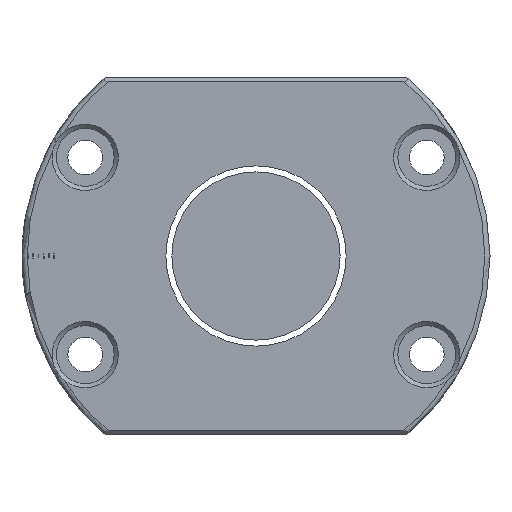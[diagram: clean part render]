
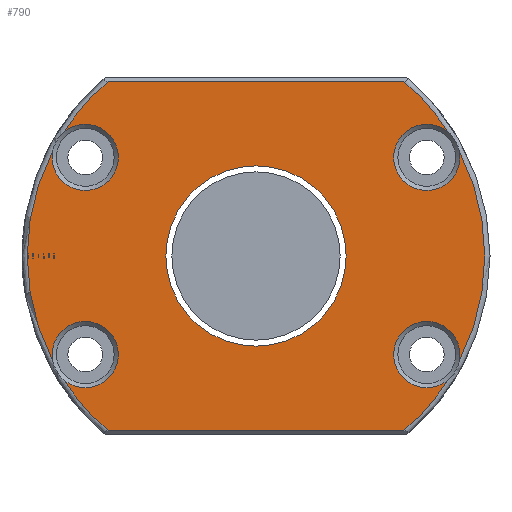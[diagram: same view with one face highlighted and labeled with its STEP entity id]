
A CAD part, left-side view. The second image highlights one B-rep face of the part: STEP entity #790.
In plain terms, the highlighted planar face has unit normal (-1, 0, 0).
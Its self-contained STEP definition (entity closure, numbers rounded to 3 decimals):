
#5 = CARTESIAN_POINT ( 'NONE',  ( -60., 36.595, 23.517 ) ) ;
#15 = AXIS2_PLACEMENT_3D ( 'NONE', #155, #627, #2931 ) ;
#40 = EDGE_CURVE ( 'NONE', #688, #693, #1375, .T. ) ;
#47 = ORIENTED_EDGE ( 'NONE', *, *, #162, .T. ) ;
#85 = VERTEX_POINT ( 'NONE', #1923 ) ;
#89 = ORIENTED_EDGE ( 'NONE', *, *, #295, .T. ) ;
#92 = CARTESIAN_POINT ( 'NONE',  ( -60., -28.71, -33.2 ) ) ;
#123 = VERTEX_POINT ( 'NONE', #2690 ) ;
#155 = CARTESIAN_POINT ( 'NONE',  ( -60., 32.476, 18.75 ) ) ;
#162 = EDGE_CURVE ( 'NONE', #351, #2145, #1739, .T. ) ;
#165 = EDGE_CURVE ( 'NONE', #123, #1654, #1431, .T. ) ;
#169 = VERTEX_POINT ( 'NONE', #3154 ) ;
#174 = VERTEX_POINT ( 'NONE', #2859 ) ;
#215 = VERTEX_POINT ( 'NONE', #1003 ) ;
#232 = AXIS2_PLACEMENT_3D ( 'NONE', #1868, #1381, #1396 ) ;
#276 = VECTOR ( 'NONE', #1888, 1000. ) ;
#295 = EDGE_CURVE ( 'NONE', #582, #2126, #2413, .T. ) ;
#351 = VERTEX_POINT ( 'NONE', #2407 ) ;
#359 = EDGE_CURVE ( 'NONE', #2145, #2344, #1221, .T. ) ;
#371 = DIRECTION ( 'NONE',  ( -1., 0., 0. ) ) ;
#380 = AXIS2_PLACEMENT_3D ( 'NONE', #402, #385, #457 ) ;
#385 = DIRECTION ( 'NONE',  ( -1., 0., 0. ) ) ;
#402 = CARTESIAN_POINT ( 'NONE',  ( -60., 0., 0. ) ) ;
#445 = DIRECTION ( 'NONE',  ( 0., 0., 1. ) ) ;
#446 = CARTESIAN_POINT ( 'NONE',  ( -60., 44.5, 0. ) ) ;
#457 = DIRECTION ( 'NONE',  ( 0., 0., 1. ) ) ;
#491 = DIRECTION ( 'NONE',  ( 0., 0., -1. ) ) ;
#509 = FACE_BOUND ( 'NONE', #921, .T. ) ;
#525 = AXIS2_PLACEMENT_3D ( 'NONE', #2605, #371, #445 ) ;
#539 = VECTOR ( 'NONE', #594, 1000. ) ;
#582 = VERTEX_POINT ( 'NONE', #1186 ) ;
#594 = DIRECTION ( 'NONE',  ( 0., -1., 0. ) ) ;
#600 = EDGE_CURVE ( 'NONE', #174, #582, #1111, .T. ) ;
#602 = EDGE_LOOP ( 'NONE', ( #1851, #47, #1070, #1558, #1677, #1917, #89, #2393, #2081, #1895, #2388, #934 ) ) ;
#622 = AXIS2_PLACEMENT_3D ( 'NONE', #1915, #1007, #491 ) ;
#627 = DIRECTION ( 'NONE',  ( 1., 0., 0. ) ) ;
#638 = EDGE_CURVE ( 'NONE', #2344, #85, #900, .T. ) ;
#688 = VERTEX_POINT ( 'NONE', #5 ) ;
#693 = VERTEX_POINT ( 'NONE', #2246 ) ;
#719 = CARTESIAN_POINT ( 'NONE',  ( -60., 28.107, 33.2 ) ) ;
#732 = DIRECTION ( 'NONE',  ( 1., 0., 0. ) ) ;
#757 = DIRECTION ( 'NONE',  ( 0., 0., 1. ) ) ;
#790 = ADVANCED_FACE ( 'NONE', ( #1507, #509 ), #1370, .T. ) ;
#900 = CIRCLE ( 'NONE', #1166, 43.5 ) ;
#921 = EDGE_LOOP ( 'NONE', ( #2443 ) ) ;
#934 = ORIENTED_EDGE ( 'NONE', *, *, #2591, .T. ) ;
#999 = DIRECTION ( 'NONE',  ( 0., 0., 1. ) ) ;
#1003 = CARTESIAN_POINT ( 'NONE',  ( -60., 0., -17.15 ) ) ;
#1007 = DIRECTION ( 'NONE',  ( 1., 0., 0. ) ) ;
#1008 = AXIS2_PLACEMENT_3D ( 'NONE', #446, #2381, #2851 ) ;
#1070 = ORIENTED_EDGE ( 'NONE', *, *, #359, .T. ) ;
#1075 = EDGE_CURVE ( 'NONE', #169, #351, #2829, .T. ) ;
#1111 = CIRCLE ( 'NONE', #2941, 43.5 ) ;
#1146 = DIRECTION ( 'NONE',  ( 1., 0., 0. ) ) ;
#1166 = AXIS2_PLACEMENT_3D ( 'NONE', #1711, #2666, #999 ) ;
#1186 = CARTESIAN_POINT ( 'NONE',  ( -60., -28.107, 33.2 ) ) ;
#1221 = CIRCLE ( 'NONE', #2681, 6.3 ) ;
#1271 = CARTESIAN_POINT ( 'NONE',  ( -60., 36.595, -23.517 ) ) ;
#1360 = CIRCLE ( 'NONE', #3182, 43.5 ) ;
#1362 = DIRECTION ( 'NONE',  ( 0., 0., 1. ) ) ;
#1370 = PLANE ( 'NONE',  #1008 ) ;
#1375 = CIRCLE ( 'NONE', #15, 6.3 ) ;
#1381 = DIRECTION ( 'NONE',  ( 1., 0., 0. ) ) ;
#1396 = DIRECTION ( 'NONE',  ( 0., 0., 1. ) ) ;
#1431 = CIRCLE ( 'NONE', #232, 6.3 ) ;
#1507 = FACE_OUTER_BOUND ( 'NONE', #602, .T. ) ;
#1515 = DIRECTION ( 'NONE',  ( 0., 0., 1. ) ) ;
#1558 = ORIENTED_EDGE ( 'NONE', *, *, #638, .T. ) ;
#1654 = VERTEX_POINT ( 'NONE', #1271 ) ;
#1677 = ORIENTED_EDGE ( 'NONE', *, *, #2484, .T. ) ;
#1706 = CARTESIAN_POINT ( 'NONE',  ( -60., -32.476, 18.75 ) ) ;
#1711 = CARTESIAN_POINT ( 'NONE',  ( -60., 0., 0. ) ) ;
#1726 = CIRCLE ( 'NONE', #2809, 6.3 ) ;
#1739 = CIRCLE ( 'NONE', #380, 43.5 ) ;
#1851 = ORIENTED_EDGE ( 'NONE', *, *, #1075, .T. ) ;
#1868 = CARTESIAN_POINT ( 'NONE',  ( -60., 32.476, -18.75 ) ) ;
#1888 = DIRECTION ( 'NONE',  ( 0., 1., 0. ) ) ;
#1895 = ORIENTED_EDGE ( 'NONE', *, *, #3043, .T. ) ;
#1915 = CARTESIAN_POINT ( 'NONE',  ( -60., 0., 0. ) ) ;
#1917 = ORIENTED_EDGE ( 'NONE', *, *, #600, .T. ) ;
#1923 = CARTESIAN_POINT ( 'NONE',  ( -60., -38.664, 19.934 ) ) ;
#1966 = CARTESIAN_POINT ( 'NONE',  ( -60., 0., 0. ) ) ;
#1979 = DIRECTION ( 'NONE',  ( -1., 0., 0. ) ) ;
#2008 = CARTESIAN_POINT ( 'NONE',  ( -60., 0., 0. ) ) ;
#2081 = ORIENTED_EDGE ( 'NONE', *, *, #40, .T. ) ;
#2126 = VERTEX_POINT ( 'NONE', #719 ) ;
#2145 = VERTEX_POINT ( 'NONE', #2549 ) ;
#2246 = CARTESIAN_POINT ( 'NONE',  ( -60., 38.664, 19.934 ) ) ;
#2344 = VERTEX_POINT ( 'NONE', #2401 ) ;
#2374 = EDGE_CURVE ( 'NONE', #215, #215, #3092, .T. ) ;
#2381 = DIRECTION ( 'NONE',  ( -1., 0., 0. ) ) ;
#2388 = ORIENTED_EDGE ( 'NONE', *, *, #165, .T. ) ;
#2393 = ORIENTED_EDGE ( 'NONE', *, *, #2399, .T. ) ;
#2399 = EDGE_CURVE ( 'NONE', #2126, #688, #2402, .T. ) ;
#2401 = CARTESIAN_POINT ( 'NONE',  ( -60., -38.664, -19.934 ) ) ;
#2402 = CIRCLE ( 'NONE', #2863, 43.5 ) ;
#2407 = CARTESIAN_POINT ( 'NONE',  ( -60., -28.107, -33.2 ) ) ;
#2413 = LINE ( 'NONE', #3122, #276 ) ;
#2443 = ORIENTED_EDGE ( 'NONE', *, *, #2374, .T. ) ;
#2461 = CARTESIAN_POINT ( 'NONE',  ( -60., 0., 0. ) ) ;
#2475 = DIRECTION ( 'NONE',  ( -1., 0., 0. ) ) ;
#2484 = EDGE_CURVE ( 'NONE', #85, #174, #1726, .T. ) ;
#2490 = DIRECTION ( 'NONE',  ( 0., 0., 1. ) ) ;
#2549 = CARTESIAN_POINT ( 'NONE',  ( -60., -36.595, -23.517 ) ) ;
#2591 = EDGE_CURVE ( 'NONE', #1654, #169, #1360, .T. ) ;
#2605 = CARTESIAN_POINT ( 'NONE',  ( -60., 0., 0. ) ) ;
#2666 = DIRECTION ( 'NONE',  ( -1., 0., 0. ) ) ;
#2681 = AXIS2_PLACEMENT_3D ( 'NONE', #3133, #1146, #1362 ) ;
#2690 = CARTESIAN_POINT ( 'NONE',  ( -60., 38.664, -19.934 ) ) ;
#2809 = AXIS2_PLACEMENT_3D ( 'NONE', #1706, #732, #3181 ) ;
#2829 = LINE ( 'NONE', #92, #539 ) ;
#2851 = DIRECTION ( 'NONE',  ( 0., 0., 1. ) ) ;
#2859 = CARTESIAN_POINT ( 'NONE',  ( -60., -36.595, 23.517 ) ) ;
#2863 = AXIS2_PLACEMENT_3D ( 'NONE', #2008, #2983, #757 ) ;
#2931 = DIRECTION ( 'NONE',  ( 0., 0., 1. ) ) ;
#2941 = AXIS2_PLACEMENT_3D ( 'NONE', #2461, #2475, #2490 ) ;
#2983 = DIRECTION ( 'NONE',  ( -1., 0., 0. ) ) ;
#3013 = CIRCLE ( 'NONE', #525, 43.5 ) ;
#3043 = EDGE_CURVE ( 'NONE', #693, #123, #3013, .T. ) ;
#3092 = CIRCLE ( 'NONE', #622, 17.15 ) ;
#3122 = CARTESIAN_POINT ( 'NONE',  ( -60., 28.71, 33.2 ) ) ;
#3133 = CARTESIAN_POINT ( 'NONE',  ( -60., -32.476, -18.75 ) ) ;
#3154 = CARTESIAN_POINT ( 'NONE',  ( -60., 28.107, -33.2 ) ) ;
#3181 = DIRECTION ( 'NONE',  ( 0., 0., 1. ) ) ;
#3182 = AXIS2_PLACEMENT_3D ( 'NONE', #1966, #1979, #1515 ) ;
